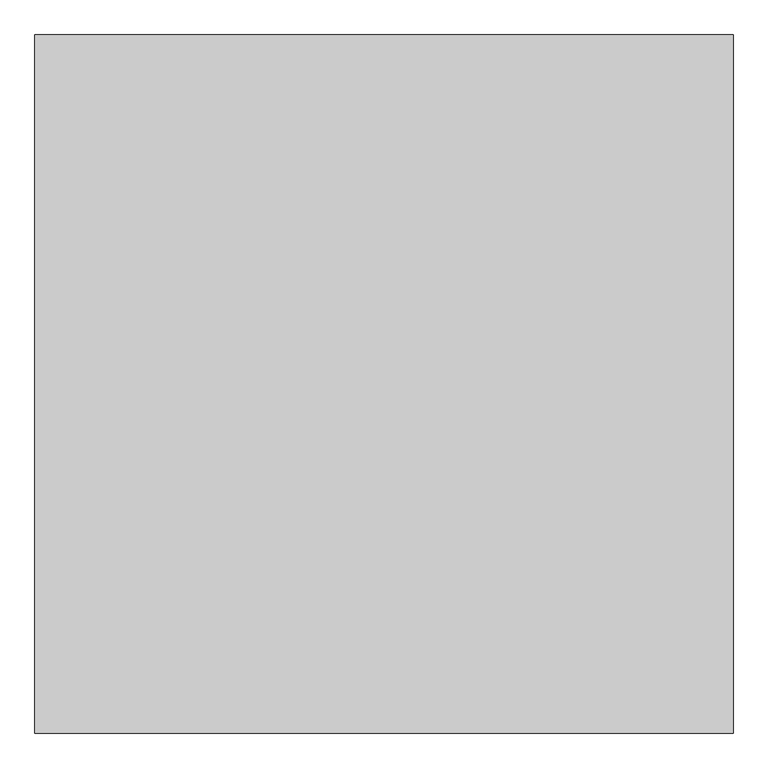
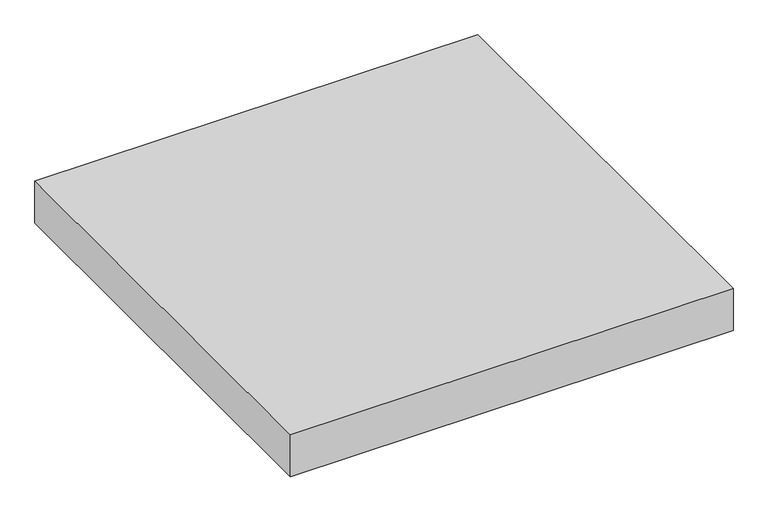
"""IFC4 building model written with IfcOpenShell, lengths in millimetres: proxy geometry, 営_屋上基礎_簡易 : 3000*3000*H300."""

from ifc_helpers import new_model, si_unit, origin, origin_with_axes, place, context, project, spatial, polyline, outline, extrude, source, transform, mapped, element, save


def generic_models_70fadd8d(model_context):
    return source(origin(), model_context, "Body", "SweptSolid", [
        extrude(outline(polyline([(1500.0, 1500.0), (1500.0, -1500.0), (-1500.0, -1500.0), (-1500.0, 1500.0), (1500.0, 1500.0)])), origin_with_axes(), (0.0, 0.0, 1.0), 300.0),
    ])


if __name__ == "__main__":
    model = new_model("IFC4")
    model_context = context("Model", 3, world=origin())
    ifc_project = project(units=[si_unit("LENGTHUNIT", "METRE", prefix="MILLI")], contexts=[model_context])
    site = spatial("IfcSite", under=ifc_project)
    building = spatial("IfcBuilding", under=site)
    placement = place(None, origin())
    generic_models_shape = generic_models_70fadd8d(model_context)
    element("IfcBuildingElementProxy", 1, Name="営_屋上基礎_簡易 : 3000*3000*H300", ObjectType="営_屋上基礎_簡易 : 3000*3000*H300", at=placement, inside=building, context=model_context, shape_type="MappedRepresentation", body=[
        mapped(generic_models_shape, transform((0.0, 0.0, 0.0), x_axis=(1.0, 0.0, 0.0), y_axis=(0.0, 1.0, 0.0), z_axis=(0.0, 0.0, 1.0))),
    ])
    save(model, "model.ifc")
